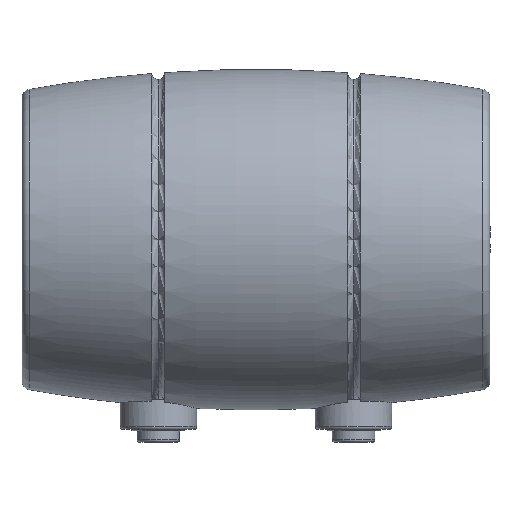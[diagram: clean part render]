
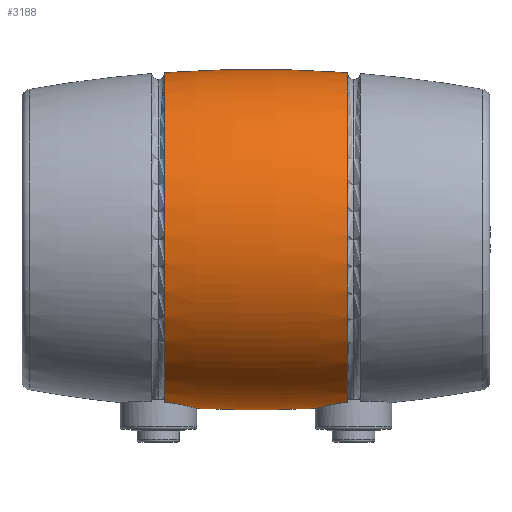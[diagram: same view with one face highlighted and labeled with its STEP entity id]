
A CAD part, front view. The second image highlights one B-rep face of the part: STEP entity #3188.
In plain terms, the highlighted toroidal (fillet/blend) face has major radius 132.5 mm and minor radius 152.5 mm.
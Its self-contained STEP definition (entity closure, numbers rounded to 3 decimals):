
#3 = B_SPLINE_CURVE_WITH_KNOTS ( 'NONE', 3,
 ( #1971, #1948, #1967, #1972, #1973, #1974, #1975, #1976, #1977, #1978, #1979, #1980, #1981, #1982, #1983, #1984 ),
 .UNSPECIFIED., .F., .F.,
 ( 4, 2, 2, 2, 2, 2, 2, 4 ),
 ( 0., 0.002, 0.002, 0.003, 0.004, 0.005, 0.006, 0.006 ),
 .UNSPECIFIED. ) ;
#17 = EDGE_CURVE ( 'NONE', #3158, #1013, #3, .T. ) ;
#34 = VERTEX_POINT ( 'NONE', #2063 ) ;
#59 = TOROIDAL_SURFACE ( 'NONE', #2310, -132.5, 152.5 ) ;
#123 = EDGE_CURVE ( 'NONE', #3158, #3122, #4268, .T. ) ;
#645 = CARTESIAN_POINT ( 'NONE',  ( 3.343, 0., 0. ) ) ;
#646 = DIRECTION ( 'NONE',  ( -1., 0., 0. ) ) ;
#647 = DIRECTION ( 'NONE',  ( 0., 0., 1. ) ) ;
#818 = CARTESIAN_POINT ( 'NONE',  ( -0.44, 0., -19.841 ) ) ;
#819 = CARTESIAN_POINT ( 'NONE',  ( -0.44, -0.267, -19.841 ) ) ;
#823 = CARTESIAN_POINT ( 'NONE',  ( -0.416, -0.531, -19.834 ) ) ;
#824 = CARTESIAN_POINT ( 'NONE',  ( -0.323, -1.053, -19.809 ) ) ;
#825 = CARTESIAN_POINT ( 'NONE',  ( -0.252, -1.314, -19.79 ) ) ;
#826 = CARTESIAN_POINT ( 'NONE',  ( -0.068, -1.811, -19.742 ) ) ;
#827 = CARTESIAN_POINT ( 'NONE',  ( 0.045, -2.049, -19.713 ) ) ;
#828 = CARTESIAN_POINT ( 'NONE',  ( 0.313, -2.505, -19.647 ) ) ;
#829 = CARTESIAN_POINT ( 'NONE',  ( 0.468, -2.723, -19.609 ) ) ;
#830 = CARTESIAN_POINT ( 'NONE',  ( 0.81, -3.123, -19.531 ) ) ;
#831 = CARTESIAN_POINT ( 'NONE',  ( 0.997, -3.307, -19.491 ) ) ;
#832 = CARTESIAN_POINT ( 'NONE',  ( 1.404, -3.642, -19.407 ) ) ;
#833 = CARTESIAN_POINT ( 'NONE',  ( 1.624, -3.792, -19.365 ) ) ;
#834 = CARTESIAN_POINT ( 'NONE',  ( 2.081, -4.05, -19.284 ) ) ;
#835 = CARTESIAN_POINT ( 'NONE',  ( 2.319, -4.158, -19.246 ) ) ;
#836 = CARTESIAN_POINT ( 'NONE',  ( 2.819, -4.334, -19.173 ) ) ;
#837 = CARTESIAN_POINT ( 'NONE',  ( 3.079, -4.4, -19.14 ) ) ;
#838 = CARTESIAN_POINT ( 'NONE',  ( 3.343, -4.442, -19.111 ) ) ;
#975 = VERTEX_POINT ( 'NONE', #2161 ) ;
#989 = VERTEX_POINT ( 'NONE', #2183 ) ;
#1013 = VERTEX_POINT ( 'NONE', #1042 ) ;
#1042 = CARTESIAN_POINT ( 'NONE',  ( -14.38, 0., -19.841 ) ) ;
#1158 = CARTESIAN_POINT ( 'NONE',  ( -7.409, 0., -132.5 ) ) ;
#1159 = DIRECTION ( 'NONE',  ( 0., -1., 0. ) ) ;
#1160 = DIRECTION ( 'NONE',  ( 0., 0., -1. ) ) ;
#1450 = CARTESIAN_POINT ( 'NONE',  ( -18.161, 0., 19.62 ) ) ;
#1486 = CARTESIAN_POINT ( 'NONE',  ( -18.161, -4.442, -19.111 ) ) ;
#1789 = DIRECTION ( 'NONE',  ( -1., 0., 0. ) ) ;
#1790 = FACE_OUTER_BOUND ( 'NONE', #2859, .T. ) ;
#1792 = CARTESIAN_POINT ( 'NONE',  ( -7.409, 0., 0. ) ) ;
#1795 = DIRECTION ( 'NONE',  ( 0., 0., 1. ) ) ;
#1948 = CARTESIAN_POINT ( 'NONE',  ( -17.633, -4.357, -19.169 ) ) ;
#1967 = CARTESIAN_POINT ( 'NONE',  ( -17.136, -4.182, -19.243 ) ) ;
#1971 = CARTESIAN_POINT ( 'NONE',  ( -18.161, -4.442, -19.111 ) ) ;
#1972 = CARTESIAN_POINT ( 'NONE',  ( -16.442, -3.792, -19.365 ) ) ;
#1973 = CARTESIAN_POINT ( 'NONE',  ( -16.226, -3.643, -19.407 ) ) ;
#1974 = CARTESIAN_POINT ( 'NONE',  ( -15.821, -3.311, -19.49 ) ) ;
#1975 = CARTESIAN_POINT ( 'NONE',  ( -15.631, -3.125, -19.531 ) ) ;
#1976 = CARTESIAN_POINT ( 'NONE',  ( -15.287, -2.722, -19.61 ) ) ;
#1977 = CARTESIAN_POINT ( 'NONE',  ( -15.135, -2.508, -19.646 ) ) ;
#1978 = CARTESIAN_POINT ( 'NONE',  ( -14.868, -2.054, -19.712 ) ) ;
#1979 = CARTESIAN_POINT ( 'NONE',  ( -14.753, -1.813, -19.742 ) ) ;
#1980 = CARTESIAN_POINT ( 'NONE',  ( -14.568, -1.313, -19.79 ) ) ;
#1981 = CARTESIAN_POINT ( 'NONE',  ( -14.498, -1.058, -19.809 ) ) ;
#1982 = CARTESIAN_POINT ( 'NONE',  ( -14.404, -0.536, -19.834 ) ) ;
#1983 = CARTESIAN_POINT ( 'NONE',  ( -14.38, -0.267, -19.841 ) ) ;
#1984 = CARTESIAN_POINT ( 'NONE',  ( -14.38, 0., -19.841 ) ) ;
#2063 = CARTESIAN_POINT ( 'NONE',  ( 3.343, 0., 19.62 ) ) ;
#2161 = CARTESIAN_POINT ( 'NONE',  ( -0.44, 0., -19.841 ) ) ;
#2168 = CARTESIAN_POINT ( 'NONE',  ( -18.161, 0., 0. ) ) ;
#2169 = DIRECTION ( 'NONE',  ( -1., 0., 0. ) ) ;
#2170 = DIRECTION ( 'NONE',  ( 0., 0., 1. ) ) ;
#2183 = CARTESIAN_POINT ( 'NONE',  ( 3.343, -4.442, -19.111 ) ) ;
#2310 = AXIS2_PLACEMENT_3D ( 'NONE', #1792, #1789, #1795 ) ;
#2323 = B_SPLINE_CURVE_WITH_KNOTS ( 'NONE', 3,
 ( #818, #819, #823, #824, #825, #826, #827, #828, #829, #830, #831, #832, #833, #834, #835, #836, #837, #838 ),
 .UNSPECIFIED., .F., .F.,
 ( 4, 2, 2, 2, 2, 2, 2, 2, 4 ),
 ( 0.006, 0.007, 0.008, 0.009, 0.01, 0.01, 0.011, 0.012, 0.013 ),
 .UNSPECIFIED. ) ;
#2396 = CIRCLE ( 'NONE', #2403, 19.62 ) ;
#2403 = AXIS2_PLACEMENT_3D ( 'NONE', #645, #646, #647 ) ;
#2765 = EDGE_CURVE ( 'NONE', #34, #3122, #4387, .T. ) ;
#2859 = EDGE_LOOP ( 'NONE', ( #3474, #3473, #3472, #3471, #3470, #3469 ) ) ;
#3122 = VERTEX_POINT ( 'NONE', #1450 ) ;
#3158 = VERTEX_POINT ( 'NONE', #1486 ) ;
#3188 = ADVANCED_FACE ( 'NONE', ( #1790 ), #59, .T. ) ;
#3260 = EDGE_CURVE ( 'NONE', #975, #1013, #4563, .T. ) ;
#3469 = ORIENTED_EDGE ( 'NONE', *, *, #17, .T. ) ;
#3470 = ORIENTED_EDGE ( 'NONE', *, *, #123, .F. ) ;
#3471 = ORIENTED_EDGE ( 'NONE', *, *, #2765, .T. ) ;
#3472 = ORIENTED_EDGE ( 'NONE', *, *, #4428, .T. ) ;
#3473 = ORIENTED_EDGE ( 'NONE', *, *, #4461, .T. ) ;
#3474 = ORIENTED_EDGE ( 'NONE', *, *, #3260, .F. ) ;
#3982 = CARTESIAN_POINT ( 'NONE',  ( -7.409, 0., 132.5 ) ) ;
#3983 = DIRECTION ( 'NONE',  ( 0., 1., 0. ) ) ;
#3984 = DIRECTION ( 'NONE',  ( 0., 0., 1. ) ) ;
#4268 = CIRCLE ( 'NONE', #4271, 19.62 ) ;
#4271 = AXIS2_PLACEMENT_3D ( 'NONE', #2168, #2169, #2170 ) ;
#4387 = CIRCLE ( 'NONE', #4391, 152.5 ) ;
#4391 = AXIS2_PLACEMENT_3D ( 'NONE', #1158, #1159, #1160 ) ;
#4428 = EDGE_CURVE ( 'NONE', #989, #34, #2396, .T. ) ;
#4461 = EDGE_CURVE ( 'NONE', #975, #989, #2323, .T. ) ;
#4563 = CIRCLE ( 'NONE', #4581, 152.5 ) ;
#4581 = AXIS2_PLACEMENT_3D ( 'NONE', #3982, #3983, #3984 ) ;
